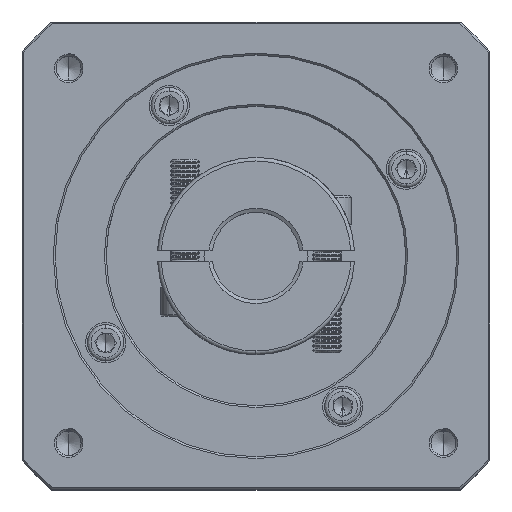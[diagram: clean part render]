
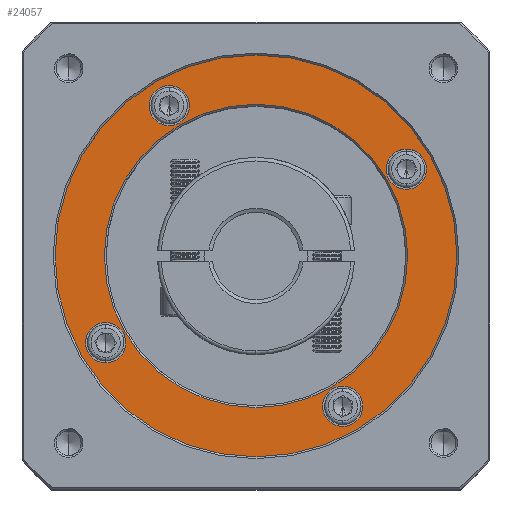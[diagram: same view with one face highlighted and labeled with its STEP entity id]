
A CAD part, top view. The second image highlights one B-rep face of the part: STEP entity #24057.
In plain terms, the highlighted planar face has unit normal (0, 0, 1).
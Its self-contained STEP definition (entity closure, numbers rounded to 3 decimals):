
#224 = DIRECTION ( 'NONE',  ( 0., -1., 0. ) ) ;
#529 = AXIS2_PLACEMENT_3D ( 'NONE', #91589, #70057, #133785 ) ;
#550 = CIRCLE ( 'NONE', #79392, 5.5 ) ;
#1227 = DIRECTION ( 'NONE',  ( 0., 0., -1. ) ) ;
#1773 = ORIENTED_EDGE ( 'NONE', *, *, #79494, .T. ) ;
#3538 = DIRECTION ( 'NONE',  ( 0., -1., 0. ) ) ;
#3592 = EDGE_CURVE ( 'NONE', #65455, #65050, #124039, .T. ) ;
#4172 = DIRECTION ( 'NONE',  ( 0., 0., -1. ) ) ;
#4230 = CIRCLE ( 'NONE', #34713, 5.5 ) ;
#5412 = CARTESIAN_POINT ( 'NONE',  ( 42.378, 52.261, 51.74 ) ) ;
#6503 = AXIS2_PLACEMENT_3D ( 'NONE', #109581, #120820, #13661 ) ;
#9177 = DIRECTION ( 'NONE',  ( 0., 0., 1. ) ) ;
#13661 = DIRECTION ( 'NONE',  ( 0., -1., 0. ) ) ;
#16909 = DIRECTION ( 'NONE',  ( 0., -1., 0. ) ) ;
#17341 = DIRECTION ( 'NONE',  ( 0., 0., -1. ) ) ;
#18689 = VERTEX_POINT ( 'NONE', #30590 ) ;
#20582 = CARTESIAN_POINT ( 'NONE',  ( 83.514, 26.511, 51.74 ) ) ;
#21701 = DIRECTION ( 'NONE',  ( 0., 0., -1. ) ) ;
#23081 = CARTESIAN_POINT ( 'NONE',  ( 83.514, 81.511, 51.74 ) ) ;
#24057 = ADVANCED_FACE ( 'NONE', ( #116431, #131590, #56211, #84624, #88007, #29300 ), #29728, .T. ) ;
#25961 = CARTESIAN_POINT ( 'NONE',  ( 83.514, 81.511, 51.74 ) ) ;
#26690 = VERTEX_POINT ( 'NONE', #125426 ) ;
#28949 = CIRCLE ( 'NONE', #138255, 5.5 ) ;
#29300 = FACE_BOUND ( 'NONE', #80020, .T. ) ;
#29662 = EDGE_CURVE ( 'NONE', #66907, #61824, #550, .T. ) ;
#29728 = PLANE ( 'NONE',  #61623 ) ;
#29869 = ORIENTED_EDGE ( 'NONE', *, *, #117387, .T. ) ;
#30590 = CARTESIAN_POINT ( 'NONE',  ( 59.764, 117.148, 51.74 ) ) ;
#34220 = VERTEX_POINT ( 'NONE', #50473 ) ;
#34440 = ORIENTED_EDGE ( 'NONE', *, *, #3592, .T. ) ;
#34713 = AXIS2_PLACEMENT_3D ( 'NONE', #134653, #124322, #123411 ) ;
#34861 = DIRECTION ( 'NONE',  ( 0., 0., 1. ) ) ;
#35201 = EDGE_CURVE ( 'NONE', #34220, #26690, #63666, .T. ) ;
#37601 = AXIS2_PLACEMENT_3D ( 'NONE', #63462, #138377, #74195 ) ;
#37866 = EDGE_LOOP ( 'NONE', ( #104986, #42821 ) ) ;
#40523 = AXIS2_PLACEMENT_3D ( 'NONE', #48185, #4172, #79009 ) ;
#40668 = DIRECTION ( 'NONE',  ( 0., -1., 0. ) ) ;
#41794 = ORIENTED_EDGE ( 'NONE', *, *, #43880, .T. ) ;
#41805 = CIRCLE ( 'NONE', #37601, 5.5 ) ;
#42821 = ORIENTED_EDGE ( 'NONE', *, *, #29662, .T. ) ;
#43351 = CARTESIAN_POINT ( 'NONE',  ( 83.514, 81.511, 51.74 ) ) ;
#43880 = EDGE_CURVE ( 'NONE', #65050, #65455, #93440, .T. ) ;
#44672 = ORIENTED_EDGE ( 'NONE', *, *, #62211, .T. ) ;
#48185 = CARTESIAN_POINT ( 'NONE',  ( 107.264, 40.375, 51.74 ) ) ;
#48464 = CARTESIAN_POINT ( 'NONE',  ( 124.65, 99.761, 51.74 ) ) ;
#48769 = CARTESIAN_POINT ( 'NONE',  ( 107.264, 40.375, 51.74 ) ) ;
#49869 = VERTEX_POINT ( 'NONE', #109499 ) ;
#50008 = EDGE_CURVE ( 'NONE', #58522, #49869, #132186, .T. ) ;
#50473 = CARTESIAN_POINT ( 'NONE',  ( 125.014, 81.511, 51.74 ) ) ;
#51942 = CARTESIAN_POINT ( 'NONE',  ( 124.65, 110.761, 51.74 ) ) ;
#53485 = EDGE_CURVE ( 'NONE', #123200, #18689, #4230, .T. ) ;
#54026 = DIRECTION ( 'NONE',  ( 0., 0., 1. ) ) ;
#55243 = CARTESIAN_POINT ( 'NONE',  ( 124.65, 105.261, 51.74 ) ) ;
#56211 = FACE_BOUND ( 'NONE', #121893, .T. ) ;
#58522 = VERTEX_POINT ( 'NONE', #59634 ) ;
#59022 = AXIS2_PLACEMENT_3D ( 'NONE', #23081, #21701, #87615 ) ;
#59634 = CARTESIAN_POINT ( 'NONE',  ( 107.264, 45.875, 51.74 ) ) ;
#61623 = AXIS2_PLACEMENT_3D ( 'NONE', #104563, #9177, #83970 ) ;
#61824 = VERTEX_POINT ( 'NONE', #5412 ) ;
#62211 = EDGE_CURVE ( 'NONE', #49869, #58522, #28949, .T. ) ;
#63109 = DIRECTION ( 'NONE',  ( 0., 0., -1. ) ) ;
#63462 = CARTESIAN_POINT ( 'NONE',  ( 59.764, 122.648, 51.74 ) ) ;
#63666 = CIRCLE ( 'NONE', #59022, 41.5 ) ;
#64128 = CARTESIAN_POINT ( 'NONE',  ( 59.764, 128.148, 51.74 ) ) ;
#64133 = CIRCLE ( 'NONE', #6503, 5.5 ) ;
#64551 = DIRECTION ( 'NONE',  ( 0., -1., 0. ) ) ;
#65050 = VERTEX_POINT ( 'NONE', #117150 ) ;
#65282 = DIRECTION ( 'NONE',  ( -1., 0., 0. ) ) ;
#65455 = VERTEX_POINT ( 'NONE', #20582 ) ;
#65686 = EDGE_LOOP ( 'NONE', ( #29869, #119047 ) ) ;
#65786 = CIRCLE ( 'NONE', #529, 5.5 ) ;
#66907 = VERTEX_POINT ( 'NONE', #111708 ) ;
#67936 = EDGE_CURVE ( 'NONE', #61824, #66907, #64133, .T. ) ;
#70057 = DIRECTION ( 'NONE',  ( 0., 0., -1. ) ) ;
#74195 = DIRECTION ( 'NONE',  ( 0., -1., 0. ) ) ;
#74595 = CIRCLE ( 'NONE', #115943, 41.5 ) ;
#79009 = DIRECTION ( 'NONE',  ( 0., -1., 0. ) ) ;
#79392 = AXIS2_PLACEMENT_3D ( 'NONE', #137546, #63109, #40668 ) ;
#79494 = EDGE_CURVE ( 'NONE', #90072, #109912, #65786, .T. ) ;
#80020 = EDGE_LOOP ( 'NONE', ( #126499, #97658 ) ) ;
#83970 = DIRECTION ( 'NONE',  ( 0., -1., 0. ) ) ;
#84624 = FACE_BOUND ( 'NONE', #93282, .T. ) ;
#87615 = DIRECTION ( 'NONE',  ( -1., 0., 0. ) ) ;
#88007 = FACE_BOUND ( 'NONE', #37866, .T. ) ;
#88993 = AXIS2_PLACEMENT_3D ( 'NONE', #25961, #34861, #3538 ) ;
#90072 = VERTEX_POINT ( 'NONE', #48464 ) ;
#91589 = CARTESIAN_POINT ( 'NONE',  ( 124.65, 105.261, 51.74 ) ) ;
#93282 = EDGE_LOOP ( 'NONE', ( #1773, #125370 ) ) ;
#93440 = CIRCLE ( 'NONE', #88993, 55. ) ;
#96597 = CARTESIAN_POINT ( 'NONE',  ( 83.514, 81.511, 51.74 ) ) ;
#97658 = ORIENTED_EDGE ( 'NONE', *, *, #53485, .T. ) ;
#101187 = EDGE_CURVE ( 'NONE', #109912, #90072, #132365, .T. ) ;
#104563 = CARTESIAN_POINT ( 'NONE',  ( 83.514, 81.511, 51.74 ) ) ;
#104986 = ORIENTED_EDGE ( 'NONE', *, *, #67936, .T. ) ;
#109499 = CARTESIAN_POINT ( 'NONE',  ( 107.264, 34.875, 51.74 ) ) ;
#109581 = CARTESIAN_POINT ( 'NONE',  ( 42.378, 57.761, 51.74 ) ) ;
#109912 = VERTEX_POINT ( 'NONE', #51942 ) ;
#111708 = CARTESIAN_POINT ( 'NONE',  ( 42.378, 63.261, 51.74 ) ) ;
#115590 = EDGE_CURVE ( 'NONE', #18689, #123200, #41805, .T. ) ;
#115943 = AXIS2_PLACEMENT_3D ( 'NONE', #43351, #1227, #65282 ) ;
#116431 = FACE_OUTER_BOUND ( 'NONE', #130158, .T. ) ;
#117150 = CARTESIAN_POINT ( 'NONE',  ( 83.514, 136.511, 51.74 ) ) ;
#117387 = EDGE_CURVE ( 'NONE', #26690, #34220, #74595, .T. ) ;
#119047 = ORIENTED_EDGE ( 'NONE', *, *, #35201, .T. ) ;
#120820 = DIRECTION ( 'NONE',  ( 0., 0., -1. ) ) ;
#121893 = EDGE_LOOP ( 'NONE', ( #44672, #126349 ) ) ;
#123200 = VERTEX_POINT ( 'NONE', #64128 ) ;
#123411 = DIRECTION ( 'NONE',  ( 0., -1., 0. ) ) ;
#124022 = AXIS2_PLACEMENT_3D ( 'NONE', #96597, #54026, #224 ) ;
#124039 = CIRCLE ( 'NONE', #124022, 55. ) ;
#124322 = DIRECTION ( 'NONE',  ( 0., 0., -1. ) ) ;
#125370 = ORIENTED_EDGE ( 'NONE', *, *, #101187, .T. ) ;
#125426 = CARTESIAN_POINT ( 'NONE',  ( 42.014, 81.511, 51.74 ) ) ;
#126205 = AXIS2_PLACEMENT_3D ( 'NONE', #55243, #130124, #64551 ) ;
#126349 = ORIENTED_EDGE ( 'NONE', *, *, #50008, .T. ) ;
#126499 = ORIENTED_EDGE ( 'NONE', *, *, #115590, .T. ) ;
#130124 = DIRECTION ( 'NONE',  ( 0., 0., -1. ) ) ;
#130158 = EDGE_LOOP ( 'NONE', ( #34440, #41794 ) ) ;
#131590 = FACE_BOUND ( 'NONE', #65686, .T. ) ;
#132186 = CIRCLE ( 'NONE', #40523, 5.5 ) ;
#132365 = CIRCLE ( 'NONE', #126205, 5.5 ) ;
#133785 = DIRECTION ( 'NONE',  ( 0., -1., 0. ) ) ;
#134653 = CARTESIAN_POINT ( 'NONE',  ( 59.764, 122.648, 51.74 ) ) ;
#137546 = CARTESIAN_POINT ( 'NONE',  ( 42.378, 57.761, 51.74 ) ) ;
#138255 = AXIS2_PLACEMENT_3D ( 'NONE', #48769, #17341, #16909 ) ;
#138377 = DIRECTION ( 'NONE',  ( 0., 0., -1. ) ) ;
